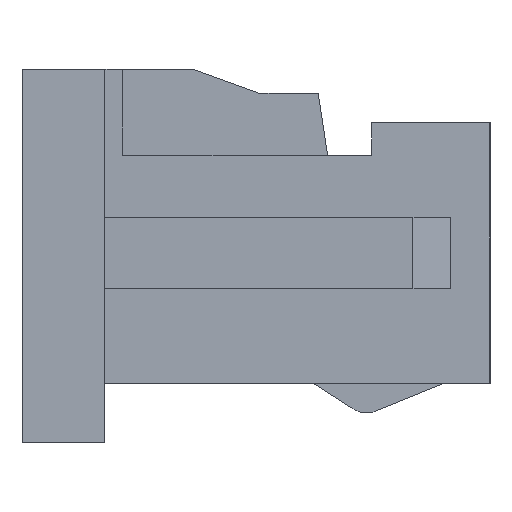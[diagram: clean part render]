
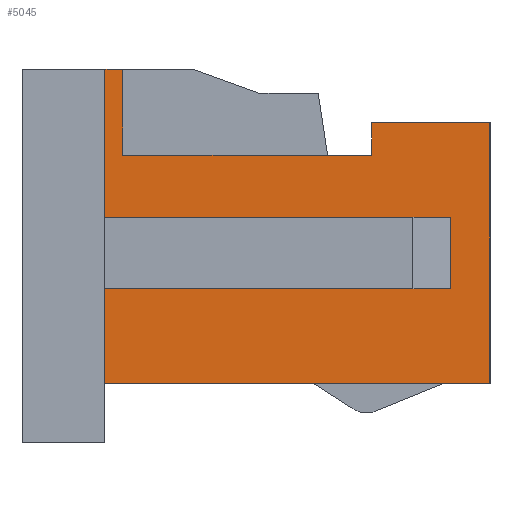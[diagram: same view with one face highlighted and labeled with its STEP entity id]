
A CAD part, left-side view. The second image highlights one B-rep face of the part: STEP entity #5045.
In plain terms, the highlighted planar face has unit normal (-1, 0, 0).
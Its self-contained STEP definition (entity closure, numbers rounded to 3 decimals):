
#17=DIRECTION('',(0.,0.,-1.));
#18=VECTOR('',#17,1.25);
#19=CARTESIAN_POINT('',(-6.475,-0.7,1.575));
#20=LINE('3118',#19,#18);
#33=DIRECTION('',(0.,0.,-1.));
#34=VECTOR('',#33,0.8);
#35=CARTESIAN_POINT('',(-6.475,-0.7,-0.275));
#36=LINE('3122',#35,#34);
#77=DIRECTION('',(0.,-1.,0.));
#78=VECTOR('',#77,0.15);
#79=CARTESIAN_POINT('',(-6.475,-0.7,1.575));
#80=LINE('3133',#79,#78);
#81=DIRECTION('',(0.,0.,-1.));
#82=VECTOR('',#81,0.725);
#83=CARTESIAN_POINT('',(-6.475,-0.85,1.575));
#84=LINE('3134',#83,#82);
#85=DIRECTION('',(0.,-1.,0.));
#86=VECTOR('',#85,2.1);
#87=CARTESIAN_POINT('',(-6.475,-0.85,0.85));
#88=LINE('3135',#87,#86);
#89=DIRECTION('',(0.,0.,1.));
#90=VECTOR('',#89,0.275);
#91=CARTESIAN_POINT('',(-6.475,-2.95,0.85));
#92=LINE('3136',#91,#90);
#93=DIRECTION('',(0.,-1.,0.));
#94=VECTOR('',#93,1.);
#95=CARTESIAN_POINT('',(-6.475,-2.95,1.125));
#96=LINE('3137',#95,#94);
#97=DIRECTION('',(0.,0.,-1.));
#98=VECTOR('',#97,2.2);
#99=CARTESIAN_POINT('',(-6.475,-3.95,1.125));
#100=LINE('3138',#99,#98);
#101=DIRECTION('',(0.,1.,0.));
#102=VECTOR('',#101,3.25);
#103=CARTESIAN_POINT('',(-6.475,-3.95,-1.075));
#104=LINE('3139',#103,#102);
#105=DIRECTION('',(0.,-1.,0.));
#106=VECTOR('',#105,2.92);
#107=CARTESIAN_POINT('',(-6.475,-0.7,-0.275));
#108=LINE('3140',#107,#106);
#109=DIRECTION('',(0.,0.,1.));
#110=VECTOR('',#109,0.6);
#111=CARTESIAN_POINT('',(-6.475,-3.62,-0.275));
#112=LINE('3141',#111,#110);
#113=DIRECTION('',(0.,1.,0.));
#114=VECTOR('',#113,2.92);
#115=CARTESIAN_POINT('',(-6.475,-3.62,0.325));
#116=LINE('3142',#115,#114);
#3729=CARTESIAN_POINT('',(-6.475,-0.7,1.575));
#3730=CARTESIAN_POINT('',(-6.475,-0.7,0.325));
#3731=VERTEX_POINT('',#3729);
#3732=VERTEX_POINT('',#3730);
#3737=CARTESIAN_POINT('',(-6.475,-0.7,-0.275));
#3738=VERTEX_POINT('',#3737);
#3739=CARTESIAN_POINT('',(-6.475,-0.7,-1.075));
#3740=VERTEX_POINT('',#3739);
#3757=CARTESIAN_POINT('',(-6.475,-0.85,1.575));
#3758=VERTEX_POINT('',#3757);
#3759=CARTESIAN_POINT('',(-6.475,-0.85,0.85));
#3760=VERTEX_POINT('',#3759);
#3761=CARTESIAN_POINT('',(-6.475,-2.95,0.85));
#3762=VERTEX_POINT('',#3761);
#3763=CARTESIAN_POINT('',(-6.475,-2.95,1.125));
#3764=VERTEX_POINT('',#3763);
#3765=CARTESIAN_POINT('',(-6.475,-3.95,1.125));
#3766=VERTEX_POINT('',#3765);
#3767=CARTESIAN_POINT('',(-6.475,-3.95,-1.075));
#3768=VERTEX_POINT('',#3767);
#3769=CARTESIAN_POINT('',(-6.475,-3.62,-0.275));
#3770=VERTEX_POINT('',#3769);
#3771=CARTESIAN_POINT('',(-6.475,-3.62,0.325));
#3772=VERTEX_POINT('',#3771);
#5016=CARTESIAN_POINT('',(-6.475,-2.325,0.25));
#5017=DIRECTION('',(1.,0.,0.));
#5018=DIRECTION('',(0.,1.,0.));
#5019=AXIS2_PLACEMENT_3D('',#5016,#5017,#5018);
#5020=PLANE('4044',#5019);
#5021=ORIENTED_EDGE('3118',*,*,#4982,.F.);
#5023=ORIENTED_EDGE('3133',*,*,#5022,.T.);
#5025=ORIENTED_EDGE('3134',*,*,#5024,.T.);
#5027=ORIENTED_EDGE('3135',*,*,#5026,.T.);
#5029=ORIENTED_EDGE('3136',*,*,#5028,.T.);
#5031=ORIENTED_EDGE('3137',*,*,#5030,.T.);
#5033=ORIENTED_EDGE('3138',*,*,#5032,.T.);
#5035=ORIENTED_EDGE('3139',*,*,#5034,.T.);
#5036=ORIENTED_EDGE('3122',*,*,#4990,.F.);
#5038=ORIENTED_EDGE('3140',*,*,#5037,.T.);
#5040=ORIENTED_EDGE('3141',*,*,#5039,.T.);
#5042=ORIENTED_EDGE('3142',*,*,#5041,.T.);
#5043=EDGE_LOOP('4044',(#5021,#5023,#5025,#5027,#5029,#5031,#5033,#5035,#5036,
#5038,#5040,#5042));
#5044=FACE_OUTER_BOUND('4044',#5043,.F.);
#5045=ADVANCED_FACE('4044',(#5044),#5020,.F.);
#4982=EDGE_CURVE('3118',#3731,#3732,#20,.T.);
#4990=EDGE_CURVE('3122',#3738,#3740,#36,.T.);
#5022=EDGE_CURVE('3133',#3731,#3758,#80,.T.);
#5024=EDGE_CURVE('3134',#3758,#3760,#84,.T.);
#5026=EDGE_CURVE('3135',#3760,#3762,#88,.T.);
#5028=EDGE_CURVE('3136',#3762,#3764,#92,.T.);
#5030=EDGE_CURVE('3137',#3764,#3766,#96,.T.);
#5032=EDGE_CURVE('3138',#3766,#3768,#100,.T.);
#5034=EDGE_CURVE('3139',#3768,#3740,#104,.T.);
#5037=EDGE_CURVE('3140',#3738,#3770,#108,.T.);
#5039=EDGE_CURVE('3141',#3770,#3772,#112,.T.);
#5041=EDGE_CURVE('3142',#3772,#3732,#116,.T.);
